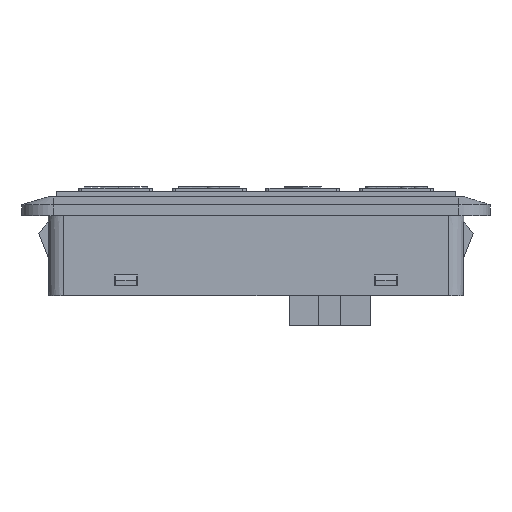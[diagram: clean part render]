
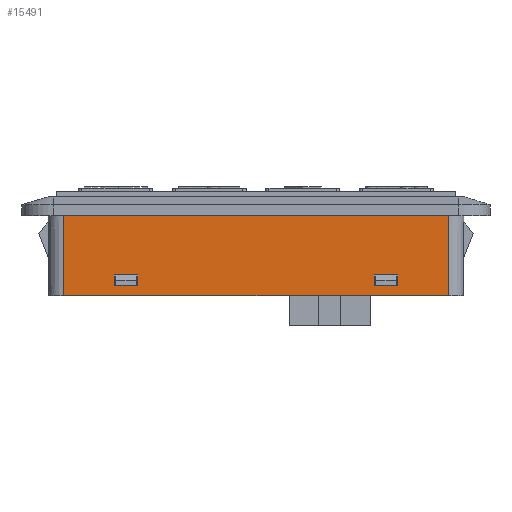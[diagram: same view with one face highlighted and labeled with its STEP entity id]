
A CAD part, front view. The second image highlights one B-rep face of the part: STEP entity #15491.
In plain terms, the highlighted planar face has unit normal (0, -1, -0.009).
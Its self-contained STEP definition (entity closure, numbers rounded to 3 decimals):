
#47=DIRECTION('',(1.,0.,0.));
#48=VECTOR('',#47,74.);
#49=CARTESIAN_POINT('',(-37.,-64.866,0.));
#50=LINE('',#49,#48);
#6201=DIRECTION('',(0.,0.009,-1.));
#6202=VECTOR('',#6201,15.401);
#6203=CARTESIAN_POINT('',(37.,-65.,15.4));
#6204=LINE('',#6203,#6202);
#6208=DIRECTION('',(0.,0.009,-1.));
#6209=VECTOR('',#6208,15.401);
#6210=CARTESIAN_POINT('',(-37.,-65.,15.4));
#6211=LINE('',#6210,#6209);
#6215=DIRECTION('',(1.,0.,0.));
#6216=VECTOR('',#6215,74.);
#6217=CARTESIAN_POINT('',(-37.,-65.,15.4));
#6218=LINE('',#6217,#6216);
#6222=DIRECTION('',(0.,0.009,-1.));
#6223=VECTOR('',#6222,2.05);
#6224=CARTESIAN_POINT('',(27.25,-64.901,4.));
#6225=LINE('',#6224,#6223);
#6229=DIRECTION('',(1.,0.,0.));
#6230=VECTOR('',#6229,4.5);
#6231=CARTESIAN_POINT('',(22.75,-64.901,4.));
#6232=LINE('',#6231,#6230);
#6236=DIRECTION('',(0.,-0.009,1.));
#6237=VECTOR('',#6236,2.05);
#6238=CARTESIAN_POINT('',(22.75,-64.883,1.95));
#6239=LINE('',#6238,#6237);
#6243=DIRECTION('',(-1.,0.,0.));
#6244=VECTOR('',#6243,4.5);
#6245=CARTESIAN_POINT('',(27.25,-64.883,1.95));
#6246=LINE('',#6245,#6244);
#6250=DIRECTION('',(1.,0.,0.));
#6251=VECTOR('',#6250,4.5);
#6252=CARTESIAN_POINT('',(-27.25,-64.901,4.));
#6253=LINE('',#6252,#6251);
#6257=DIRECTION('',(0.,-0.009,1.));
#6258=VECTOR('',#6257,2.05);
#6259=CARTESIAN_POINT('',(-27.25,-64.883,1.95));
#6260=LINE('',#6259,#6258);
#6264=DIRECTION('',(-1.,0.,0.));
#6265=VECTOR('',#6264,4.5);
#6266=CARTESIAN_POINT('',(-22.75,-64.883,1.95));
#6267=LINE('',#6266,#6265);
#6271=DIRECTION('',(0.,0.009,-1.));
#6272=VECTOR('',#6271,2.05);
#6273=CARTESIAN_POINT('',(-22.75,-64.901,4.));
#6274=LINE('',#6273,#6272);
#8193=CARTESIAN_POINT('',(37.,-64.866,0.));
#8195=VERTEX_POINT('',#8193);
#8196=CARTESIAN_POINT('',(37.,-65.,15.4));
#8197=VERTEX_POINT('',#8196);
#8200=CARTESIAN_POINT('',(-37.,-64.866,0.));
#8202=VERTEX_POINT('',#8200);
#8206=CARTESIAN_POINT('',(-37.,-65.,15.4));
#8207=VERTEX_POINT('',#8206);
#8288=CARTESIAN_POINT('',(27.25,-64.901,4.));
#8289=CARTESIAN_POINT('',(27.25,-64.883,1.95));
#8290=VERTEX_POINT('',#8288);
#8291=VERTEX_POINT('',#8289);
#8292=CARTESIAN_POINT('',(22.75,-64.883,1.95));
#8293=VERTEX_POINT('',#8292);
#8294=CARTESIAN_POINT('',(22.75,-64.901,4.));
#8295=VERTEX_POINT('',#8294);
#8296=CARTESIAN_POINT('',(-27.25,-64.901,4.));
#8297=CARTESIAN_POINT('',(-22.75,-64.901,4.));
#8298=VERTEX_POINT('',#8296);
#8299=VERTEX_POINT('',#8297);
#8300=CARTESIAN_POINT('',(-22.75,-64.883,1.95));
#8301=VERTEX_POINT('',#8300);
#8302=CARTESIAN_POINT('',(-27.25,-64.883,1.95));
#8303=VERTEX_POINT('',#8302);
#15463=CARTESIAN_POINT('',(-43.4,-65.,15.4));
#15464=DIRECTION('',(0.,-1.,-0.009));
#15465=DIRECTION('',(-1.,0.,0.));
#15466=AXIS2_PLACEMENT_3D('',#15463,#15464,#15465);
#15467=PLANE('',#15466);
#15469=ORIENTED_EDGE('',*,*,#15468,.T.);
#15470=ORIENTED_EDGE('',*,*,#8955,.F.);
#15472=ORIENTED_EDGE('',*,*,#15471,.F.);
#15473=ORIENTED_EDGE('',*,*,#9541,.T.);
#15474=EDGE_LOOP('',(#15469,#15470,#15472,#15473));
#15475=FACE_OUTER_BOUND('',#15474,.F.);
#15476=ORIENTED_EDGE('',*,*,#15125,.F.);
#15478=ORIENTED_EDGE('',*,*,#15477,.F.);
#15479=ORIENTED_EDGE('',*,*,#15218,.F.);
#15481=ORIENTED_EDGE('',*,*,#15480,.F.);
#15482=EDGE_LOOP('',(#15476,#15478,#15479,#15481));
#15483=FACE_BOUND('',#15482,.F.);
#15484=ORIENTED_EDGE('',*,*,#15429,.F.);
#15485=ORIENTED_EDGE('',*,*,#15409,.F.);
#15487=ORIENTED_EDGE('',*,*,#15486,.F.);
#15488=ORIENTED_EDGE('',*,*,#15317,.F.);
#15489=EDGE_LOOP('',(#15484,#15485,#15487,#15488));
#15490=FACE_BOUND('',#15489,.F.);
#8955=EDGE_CURVE('',#8202,#8195,#50,.T.);
#9541=EDGE_CURVE('',#8207,#8197,#6218,.T.);
#15125=EDGE_CURVE('',#8290,#8291,#6225,.T.);
#15218=EDGE_CURVE('',#8293,#8295,#6239,.T.);
#15317=EDGE_CURVE('',#8299,#8301,#6274,.T.);
#15409=EDGE_CURVE('',#8303,#8298,#6260,.T.);
#15429=EDGE_CURVE('',#8298,#8299,#6253,.T.);
#15468=EDGE_CURVE('',#8197,#8195,#6204,.T.);
#15471=EDGE_CURVE('',#8207,#8202,#6211,.T.);
#15477=EDGE_CURVE('',#8295,#8290,#6232,.T.);
#15480=EDGE_CURVE('',#8291,#8293,#6246,.T.);
#15486=EDGE_CURVE('',#8301,#8303,#6267,.T.);
#15491=ADVANCED_FACE('',(#15475,#15483,#15490),#15467,.T.);
